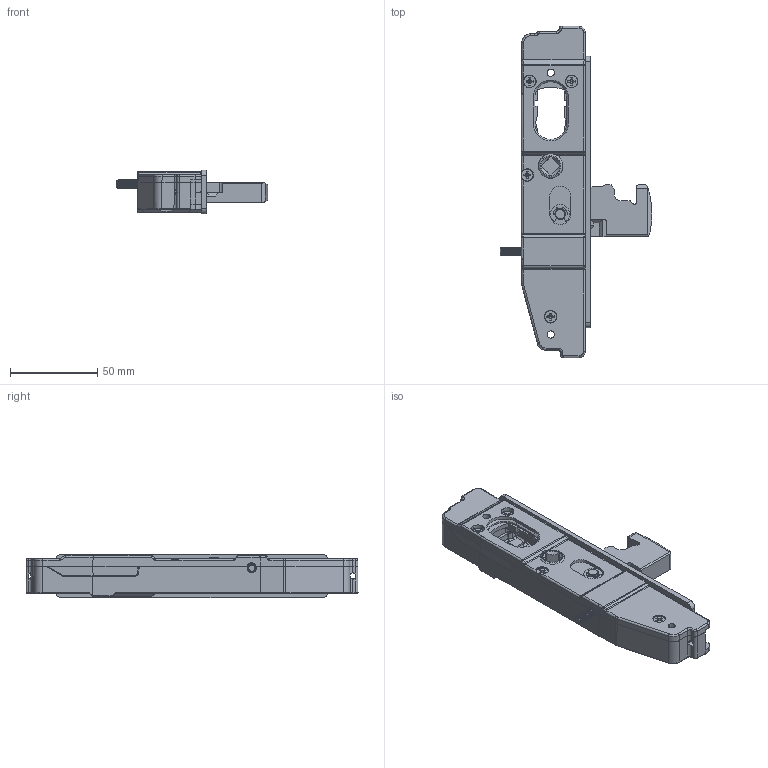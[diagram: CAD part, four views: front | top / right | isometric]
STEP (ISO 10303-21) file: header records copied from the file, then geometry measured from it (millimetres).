
FILE_DESCRIPTION((''),'2;1');
FILE_NAME('3542-5004_ASM','2015-04-24T',('pwright'),('Lockwood Security Products Pty. Ltd.'),'PRO/ENGINEER BY PARAMETRIC TECHNOLOGY CORPORATION, 2005310','PRO/ENGINEER BY PARAMETRIC TECHNOLOGY CORPORATION, 2005310','');
FILE_SCHEMA(('CONFIG_CONTROL_DESIGN'));
Products named in the file (11): 3540-13; 3540-29; 590-825; 3542-11; MN505-A; MS805-20A; ZT3540-14; 590-822; KA806-13-1-2; 3540-174; 3542-5004_ASM
Assembly tree (16 placements, depth 2):
  3542-5004_ASM
    3540-13
    3540-29
    590-825
    3542-11
    MN505-A
    MS805-20A
    ZT3540-14
    590-822
    KA806-13-1-2  x7
    3540-174
Bounding box: 86.89 x 190.26 x 25.21 mm (x, y, z)
Volume: 94146.1 mm3; surface area: 62228.5 mm2
Topology: 16 solids, 26 shells, 3684 faces, 10210 edges, 6675 vertices
Faces by surface type: plane 2421, cylinder 504, cone 379, bspline 170, extrusion 161, sphere 31, torus 18
Entity records: 132667 total; most frequent: CARTESIAN_POINT 48422, ORIENTED_EDGE 18582, DIRECTION 15466, EDGE_CURVE 9309, VECTOR 7234, LINE 7073, VERTEX_POINT 6101, AXIS2_PLACEMENT_3D 4116
